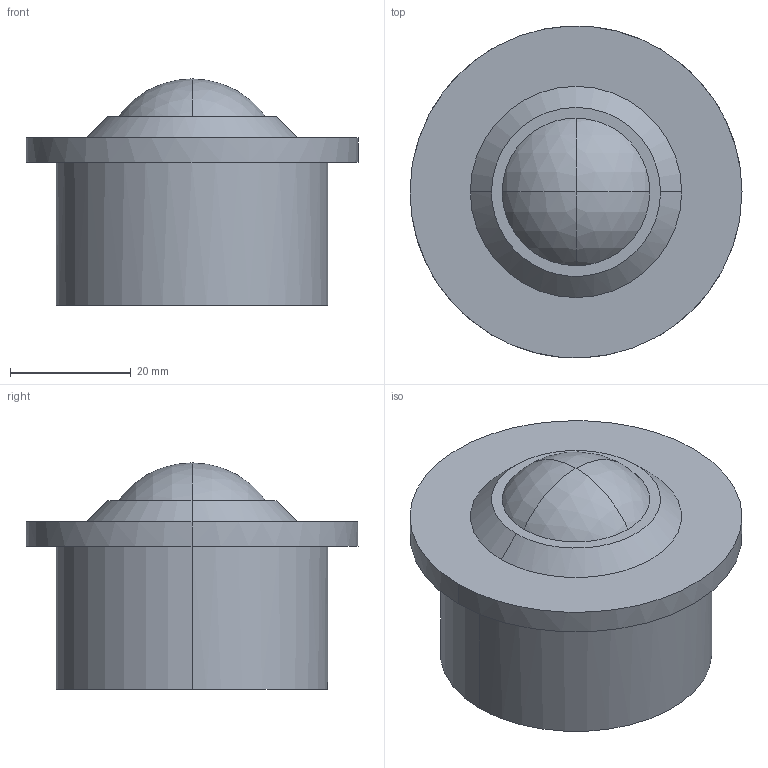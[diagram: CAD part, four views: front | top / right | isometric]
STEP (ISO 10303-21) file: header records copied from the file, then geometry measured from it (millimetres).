
FILE_DESCRIPTION(('CATIA V5 STEP Exchange'),'2;1');
FILE_NAME('C:\Users\Utente\Desktop\IO LAVORO\3D X SITO CF\X 3D SITO CF 27-09-2020\KU30B\KU30B.stp','2020-10-27T20:05:25+00:00',('none'),('none'),'CATIA Version 5 Release 20 GA (IN-10)','CATIA V5 STEP AP203','none');
FILE_SCHEMA(('CONFIG_CONTROL_DESIGN'));
Length unit declared in the file: millimetre
Products named in the file (1): KU30B
Bounding box: 55 x 55 x 37.5 mm (x, y, z)
Volume: 51543.8 mm3; surface area: 13528.8 mm2
Topology: 2 solids, 2 shells, 26 faces, 62 edges, 27 vertices
Faces by surface type: sphere 16, plane 4, cylinder 4, cone 2
Entity records: 765 total; most frequent: CARTESIAN_POINT 239, ORIENTED_EDGE 92, DIRECTION 90, AXIS2_PLACEMENT_3D 59, EDGE_CURVE 46, CIRCLE 32, EDGE_LOOP 29, VERTEX_POINT 27
